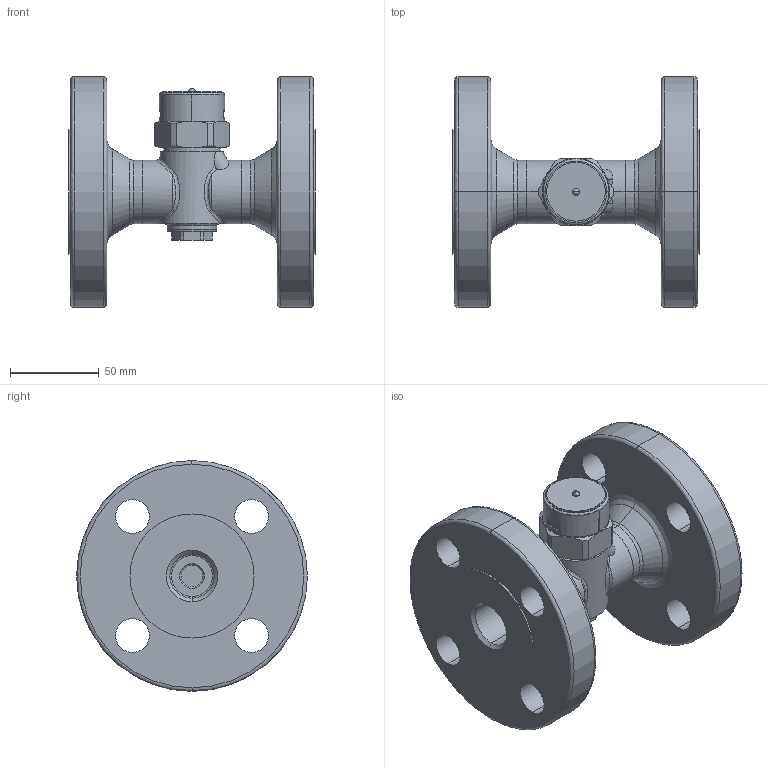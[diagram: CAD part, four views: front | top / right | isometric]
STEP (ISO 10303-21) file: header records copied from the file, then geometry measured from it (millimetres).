
FILE_DESCRIPTION( (''), '2;1');
FILE_NAME ('PC1276.13744.TSD-42F 25A JIS30K_29944.stp','2023-07-25T10:04:21',(''),(''),'spGate 19.8.4 (****-****-****-****)','','');
FILE_SCHEMA (('AUTOMOTIVE_DESIGN'));
Length unit declared in the file: millimetre
Products named in the file (10): Assembly; TSD-42F strainer cap; TSD-42F 銘板鋲; TSD-42F gasket; TSD-42F 25A 本体　3D; TSD-42F 銘板　3D; TSD-42F 保温カバー　3D; TSD-42F キャップA 3D; TSD-42F 25A 30K Flange 3D; TSD-42F 25A 30K Flange 3D_mr
Assembly tree (9 placements, depth 2):
  Assembly
    TSD-42F strainer cap
    TSD-42F 銘板鋲
    TSD-42F gasket
    TSD-42F 25A 本体　3D
    TSD-42F 銘板　3D
    TSD-42F 保温カバー　3D
    TSD-42F キャップA 3D
    TSD-42F 25A 30K Flange 3D
    TSD-42F 25A 30K Flange 3D_mr
Bounding box: 139 x 130 x 130 mm (x, y, z)
Volume: 607409.3 mm3; surface area: 113850.1 mm2
Topology: 9 solids, 9 shells, 319 faces, 719 edges, 427 vertices
Faces by surface type: cylinder 130, bspline 130, plane 57, sphere 2
Entity records: 17355 total; most frequent: CARTESIAN_POINT 5081, ORIENTED_EDGE 1398, DIRECTION 1172, COLOUR_RGB 1027, PRESENTATION_STYLE_ASSIGNMENT 1027, STYLED_ITEM 1027, EDGE_CURVE 699, DRAUGHTING_PRE_DEFINED_CURVE_FONT 699
